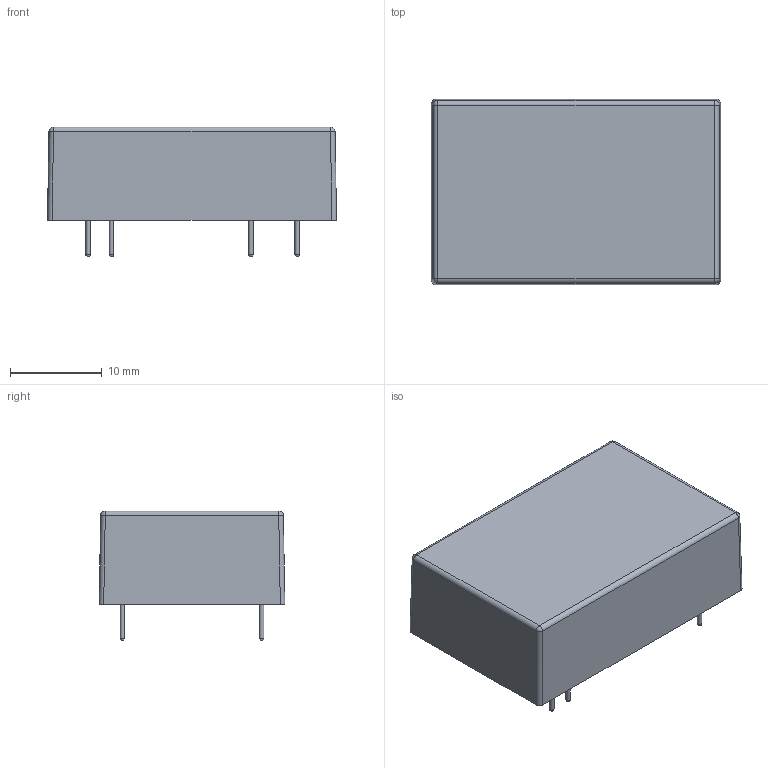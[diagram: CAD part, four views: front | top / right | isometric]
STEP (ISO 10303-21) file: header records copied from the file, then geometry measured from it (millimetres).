
FILE_DESCRIPTION(/* description */ (''),/* implementation_level */ '2;1');
FILE_NAME(/* name */ 'PFD6-XXSXXE2N3.stp',/* time_stamp */ '2025-07-15T11:27:18+08:00',/* author */ (''),/* organization */ (''),/* preprocessor_version */ 'ST-DEVELOPER v16',/* originating_system */ 'SIEMENS PLM Software NX 10.0',/* authorisation */ '123');
FILE_SCHEMA (('AUTOMOTIVE_DESIGN { 1 0 10303 214 3 1 1 1 }'));
Length unit declared in the file: millimetre
Products named in the file (1): admi5B74520Af1qz
Bounding box: 31.6 x 20.3 x 14.2 mm (x, y, z)
Volume: 6440.6 mm3; surface area: 2428.8 mm2
Topology: 8 solids, 8 shells, 87 faces, 171 edges, 113 vertices
Faces by surface type: cylinder 39, plane 37, sphere 11
Full cylindrical faces by diameter (mm): 0.5 x31
Entity records: 1838 total; most frequent: DIRECTION 352, CARTESIAN_POINT 268, ORIENTED_EDGE 196, AXIS2_PLACEMENT_3D 166, EDGE_LOOP 142, EDGE_CURVE 98, FACE_BOUND 87, ADVANCED_FACE 87
